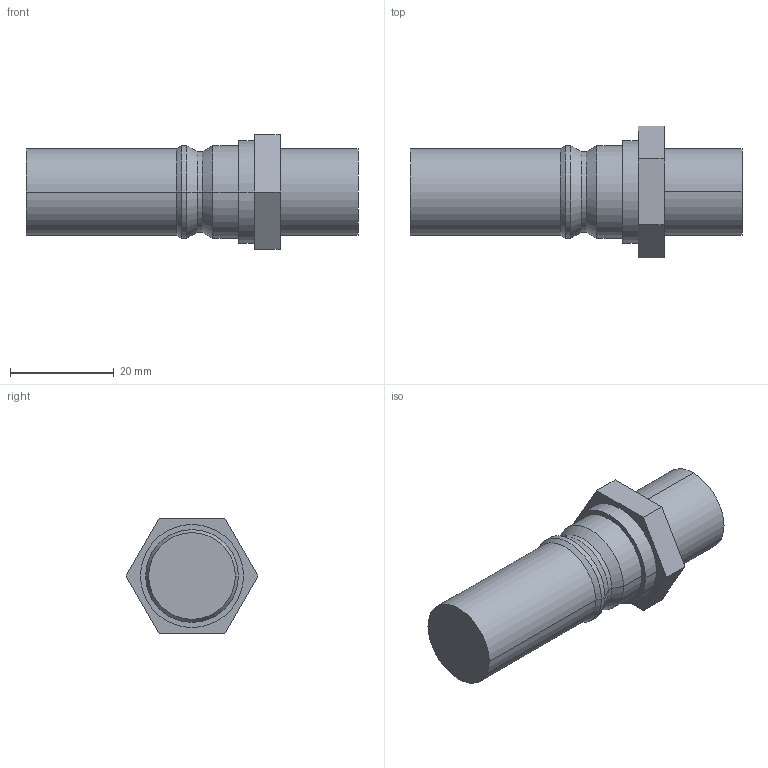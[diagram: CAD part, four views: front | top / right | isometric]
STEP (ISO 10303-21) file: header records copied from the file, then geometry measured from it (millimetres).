
FILE_DESCRIPTION (( 'STEP AP214' ), '1' );
FILE_NAME ('BR601.06 DRB 17.STEP', '2020-12-02T13:29:18', ( '' ), ( '' ), 'SwSTEP 2.0', 'SolidWorks 2018', '' );
FILE_SCHEMA (( 'AUTOMOTIVE_DESIGN' ));
Length unit declared in the file: millimetre
Products named in the file (1): BR601.06 DRB 17
Bounding box: 64 x 25.4 x 22 mm (x, y, z)
Volume: 15466.5 mm3; surface area: 4374 mm2
Topology: 1 solids, 1 shells, 29 faces, 60 edges, 36 vertices
Faces by surface type: cylinder 12, plane 11, cone 6
Entity records: 796 total; most frequent: DIRECTION 144, CARTESIAN_POINT 126, ORIENTED_EDGE 120, EDGE_CURVE 60, AXIS2_PLACEMENT_3D 54, VECTOR 36, LINE 36, VERTEX_POINT 36
